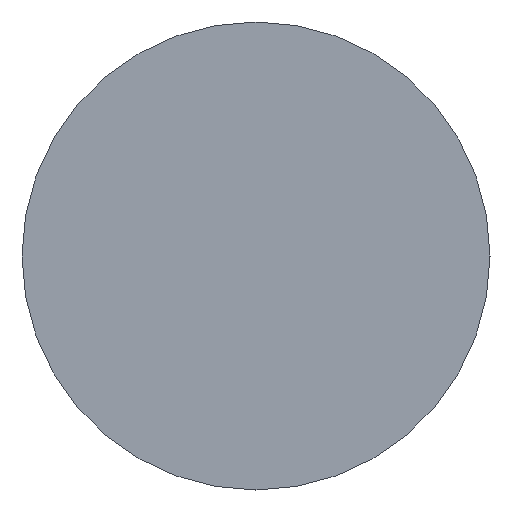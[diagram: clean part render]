
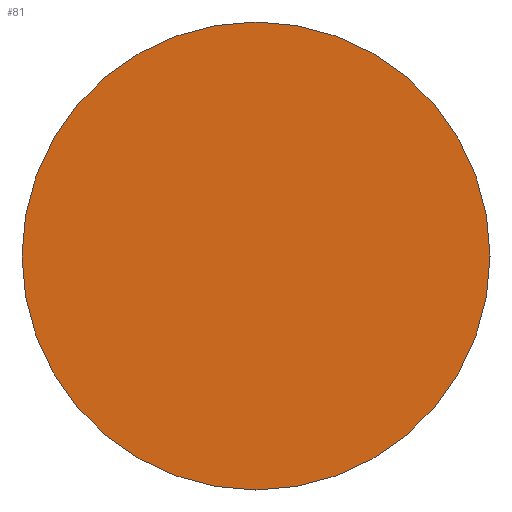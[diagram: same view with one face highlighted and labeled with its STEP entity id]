
A CAD part, left-side view. The second image highlights one B-rep face of the part: STEP entity #81.
In plain terms, the highlighted planar face has unit normal (-1, 0, 0).
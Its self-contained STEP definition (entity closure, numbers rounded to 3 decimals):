
#46 = VERTEX_POINT ( 'NONE', #195 ) ;
#61 = EDGE_LOOP ( 'NONE', ( #252, #73 ) ) ;
#73 = ORIENTED_EDGE ( 'NONE', *, *, #179, .T. ) ;
#81 = ADVANCED_FACE ( 'NONE', ( #114 ), #115, .F. ) ;
#86 = VERTEX_POINT ( 'NONE', #137 ) ;
#105 = EDGE_CURVE ( 'NONE', #86, #46, #227, .T. ) ;
#114 = FACE_OUTER_BOUND ( 'NONE', #61, .T. ) ;
#115 = PLANE ( 'NONE',  #116 ) ;
#116 = AXIS2_PLACEMENT_3D ( 'NONE', #117, #118, #119 ) ;
#117 = CARTESIAN_POINT ( 'NONE',  ( 0., 8.5, 0. ) ) ;
#118 = DIRECTION ( 'NONE',  ( 1., 0., 0. ) ) ;
#119 = DIRECTION ( 'NONE',  ( 0., 0., -1. ) ) ;
#137 = CARTESIAN_POINT ( 'NONE',  ( 0., 0., 8.5 ) ) ;
#179 = EDGE_CURVE ( 'NONE', #46, #86, #274, .T. ) ;
#195 = CARTESIAN_POINT ( 'NONE',  ( 0., 0., -8.5 ) ) ;
#227 = CIRCLE ( 'NONE', #228, 8.5 ) ;
#228 = AXIS2_PLACEMENT_3D ( 'NONE', #229, #230, #231 ) ;
#229 = CARTESIAN_POINT ( 'NONE',  ( 0., 0., 0. ) ) ;
#230 = DIRECTION ( 'NONE',  ( -1., 0., 0. ) ) ;
#231 = DIRECTION ( 'NONE',  ( 0., 0., 1. ) ) ;
#252 = ORIENTED_EDGE ( 'NONE', *, *, #105, .T. ) ;
#274 = CIRCLE ( 'NONE', #275, 8.5 ) ;
#275 = AXIS2_PLACEMENT_3D ( 'NONE', #276, #277, #278 ) ;
#276 = CARTESIAN_POINT ( 'NONE',  ( 0., 0., 0. ) ) ;
#277 = DIRECTION ( 'NONE',  ( -1., 0., 0. ) ) ;
#278 = DIRECTION ( 'NONE',  ( 0., 0., 1. ) ) ;
